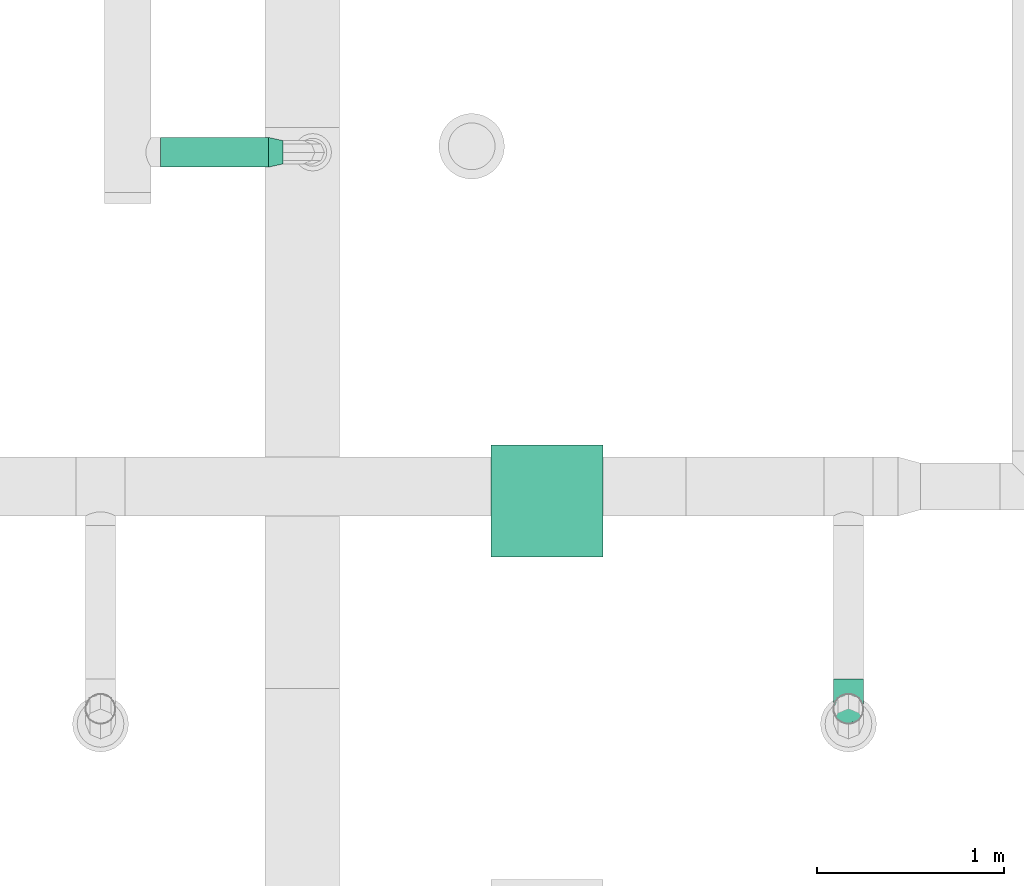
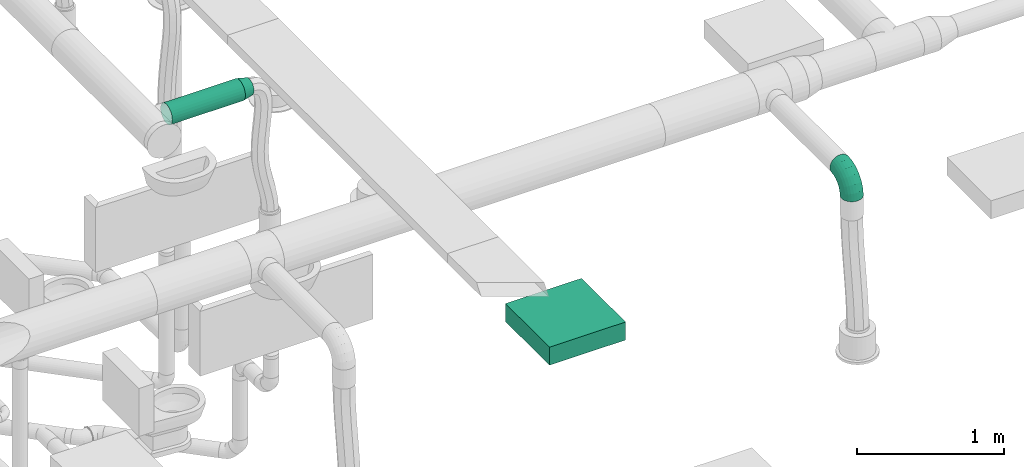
# One storey, part 97 of 374: 2 flow fittings, 1 distribution element, 1 flow segment.
"""IFC2X3 building model written with IfcOpenShell, lengths in metres."""

from ifc_helpers import new_model, si_unit, direction, frame, frame_2d, origin, place, context, subcontext, project, spatial, rectangle, extrude, open_shell, surface_model, source, transform, mapped, element, save


model = new_model("IFC2X3")

# Units and contexts
model_context = context("Model", 3, precision=1e-05, world=origin(), true_north=direction((-0.4480736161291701, 0.8939966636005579)))
body_context = subcontext(model_context, "Body", "Model", "MODEL_VIEW")
ifc_project = project(units=[si_unit("LENGTHUNIT", "METRE"), si_unit("AREAUNIT", "SQUARE_METRE"), si_unit("VOLUMEUNIT", "CUBIC_METRE"), si_unit("PLANEANGLEUNIT", "RADIAN"), si_unit("THERMODYNAMICTEMPERATUREUNIT", "KELVIN"), si_unit("MASSUNIT", "GRAM", prefix="KILO"), si_unit("TIMEUNIT", "SECOND")], contexts=[model_context])

# Site, building, storey
site_placement = place(None, origin())
site = spatial("IfcSite", under=ifc_project, at=site_placement, Name="Site 1", CompositionType="ELEMENT")
building_placement = place(site_placement, origin())
building = spatial("IfcBuilding", under=site, at=building_placement, Name="Undefined", CompositionType="ELEMENT")
storey_placement = place(building_placement, origin())
storey = spatial("IfcBuildingStorey", under=building, at=storey_placement, Name="Rez de chauss\x8ee", CompositionType="ELEMENT", Elevation=0.0)

# Flow fitting
shared_shape_1 = source(origin(), body_context, "Body", "SurfaceModel", [
    surface_model("IfcFaceBasedSurfaceModel", [(0.06265257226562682, -8.8817842e-16, 0.0), (0.062296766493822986, 0.02088115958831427, -7.105427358e-15), (0.0003558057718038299, 0.020881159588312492, 7.105427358e-15), (0.0, 0.0, 0.0), (-0.059474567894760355, 0.022956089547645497, -0.015896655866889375), (-0.06051773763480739, 0.002098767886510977, -0.01607928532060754), (-0.11311701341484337, 0.02696454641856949, -0.04660663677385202), (-0.11477645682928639, 0.006153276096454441, -0.04714207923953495), (-0.15691588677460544, 0.0326333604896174, -0.09003710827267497), (-0.15907851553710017, 0.01188721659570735, -0.09107150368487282), (-0.18788636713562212, 0.03957621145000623, -0.14322835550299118), (-0.1904048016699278, 0.01890983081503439, -0.14487384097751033), (-0.2039178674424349, 0.04731995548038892, -0.20255548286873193), (-0.20662048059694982, 0.026742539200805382, -0.20488255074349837), (0.061253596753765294, 0.04103889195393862, -0.0053597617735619), (0.0013989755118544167, 0.04103889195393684, -0.005359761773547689), (-0.05641614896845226, 0.04304393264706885, -0.02072097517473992), (-0.10825177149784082, 0.04691737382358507, -0.050396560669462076), (-0.15057538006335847, 0.05239524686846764, -0.09236417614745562), (-0.18050269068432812, 0.05910424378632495, -0.14376379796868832), (-0.19599420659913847, 0.06658715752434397, -0.20109262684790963), (0.05959415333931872, 0.05909948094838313, -0.01571402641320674), (0.003058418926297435, 0.05909948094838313, -0.01571402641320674), (-0.05155090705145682, 0.06099334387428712, -0.030223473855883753), (-0.10051228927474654, 0.06465200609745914, -0.058253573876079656), (-0.1404890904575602, 0.0698261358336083, -0.09789412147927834), (-0.16875695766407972, 0.0761631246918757, -0.14644367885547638), (-0.18338948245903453, 0.08323111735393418, -0.2005936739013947), (0.057431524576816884, 0.07383212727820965, -0.030357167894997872), (0.005221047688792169, 0.07383212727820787, -0.03035716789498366), (-0.0452104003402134, 0.07558110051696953, -0.04375657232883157), (-0.09042599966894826, 0.07895985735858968, -0.06964223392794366), (-0.12734438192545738, 0.08373814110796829, -0.10625008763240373), (-0.15344962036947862, 0.08959031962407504, -0.15108536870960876), (-0.16696268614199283, 0.0961175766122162, -0.20109262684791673), (0.054913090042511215, 0.0842328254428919, -0.048291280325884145), (0.007739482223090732, 0.08423282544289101, -0.04829128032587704), (-0.037826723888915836, 0.08581307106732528, -0.06039801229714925), (-0.07868026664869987, 0.08886587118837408, -0.08378642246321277), (-0.11203704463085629, 0.09318318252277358, -0.11686262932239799), (-0.13562384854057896, 0.09847078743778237, -0.1573725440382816), (-0.14783327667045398, 0.10436834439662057, -0.20255548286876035), (0.05221047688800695, 0.0895927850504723, -0.06829418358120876), (0.010442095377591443, 0.08959278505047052, -0.06829418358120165), (-0.029903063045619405, 0.09099196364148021, -0.07901370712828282), (-0.06607554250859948, 0.09369496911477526, -0.0997222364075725), (-0.0956102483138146, 0.0975175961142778, -0.12900851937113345), (-0.11649443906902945, 0.10219933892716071, -0.16487674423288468), (-0.12730489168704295, 0.1074211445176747, -0.2048825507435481), (0.04950786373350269, 0.08954673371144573, -0.08900271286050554), (0.013144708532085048, 0.08954673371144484, -0.08900271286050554), (-0.02197940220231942, 0.09076484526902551, -0.09833502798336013), (-0.05347081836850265, 0.09311805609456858, -0.11636367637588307), (-0.0791834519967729, 0.09644599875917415, -0.14186003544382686), (-0.09736502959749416, 0.10052187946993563, -0.17308657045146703), (-0.10677650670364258, 0.1050679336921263, -0.20791524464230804), (0.04698942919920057, 0.08409780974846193, -0.10900561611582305), (0.015663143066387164, 0.08409780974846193, -0.10900561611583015), (-0.014595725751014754, 0.08514719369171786, -0.11704525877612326), (-0.0417250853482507, 0.0871744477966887, -0.13257665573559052), (-0.06387611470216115, 0.09004141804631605, -0.15454136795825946), (-0.07953925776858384, 0.09355272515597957, -0.1814425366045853), (-0.08764709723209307, 0.09746907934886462, -0.21144689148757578), (0.04482680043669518, 0.0736173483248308, -0.12693972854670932), (0.017825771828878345, 0.0736173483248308, -0.12693972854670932), (-0.008255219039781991, 0.07452184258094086, -0.13386932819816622), (-0.03163879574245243, 0.0762691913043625, -0.14725628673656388), (-0.050731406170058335, 0.07874031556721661, -0.1661883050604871), (-0.06423192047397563, 0.08176681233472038, -0.18937519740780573), (-0.07122030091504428, 0.08514243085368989, -0.21523681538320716), (0.04316735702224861, 0.058819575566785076, -0.14158287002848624), (0.019485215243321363, 0.058819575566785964, -0.14158287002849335), (-0.0033899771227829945, 0.05961289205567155, -0.14766070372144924), (-0.02389931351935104, 0.06114546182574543, -0.15940217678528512), (-0.04064511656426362, 0.06331284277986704, -0.17600712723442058), (-0.052486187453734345, 0.06596733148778, -0.19634395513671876), (-0.05861557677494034, 0.06892802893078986, -0.2190267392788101), (0.04212418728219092, 0.040712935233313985, -0.15193713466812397), (0.020528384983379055, 0.040712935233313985, -0.15193713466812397), (-0.0003315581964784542, 0.041436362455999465, -0.15747952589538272), (-0.019034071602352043, 0.04283391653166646, -0.16818660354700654), (-0.03430460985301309, 0.04481035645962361, -0.1833286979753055), (-0.04510251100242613, 0.047230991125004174, -0.20187390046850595), (-0.05069191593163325, 0.04993085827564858, -0.22255838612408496), (0.04176838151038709, 0.02053136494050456, -0.15729689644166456), (0.020884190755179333, 0.02053136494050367, -0.15729689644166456), (0.0007116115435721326, 0.021230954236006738, -0.16265665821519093), (-0.017374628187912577, 0.022582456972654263, -0.17301092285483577), (-0.03214198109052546, 0.024493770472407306, -0.1876540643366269), (-0.042584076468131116, 0.026834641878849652, -0.20558817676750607), (-0.04798930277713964, 0.02944554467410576, -0.22559108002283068), (0.04212418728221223, -0.000349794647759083, -0.15729689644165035), (0.020528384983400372, -0.000349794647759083, -0.15729689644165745), (-0.0003315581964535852, 0.00037363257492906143, -0.1628392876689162), (-0.019034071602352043, 0.0017711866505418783, -0.17354636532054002), (-0.03430460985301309, 0.0037476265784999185, -0.18868845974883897), (-0.04510251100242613, 0.00616826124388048, -0.20723366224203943), (-0.05069191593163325, 0.008868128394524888, -0.22791814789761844), (0.04316735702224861, -0.020507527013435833, -0.15193713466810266), (0.019485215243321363, -0.020507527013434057, -0.15193713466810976), (-0.0033899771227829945, -0.019714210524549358, -0.15801496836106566), (-0.02389931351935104, -0.01818164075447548, -0.16975644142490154), (-0.04064511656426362, -0.01601425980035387, -0.186361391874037), (-0.052486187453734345, -0.013359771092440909, -0.20669821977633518), (-0.05861557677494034, -0.010399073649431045, -0.22938100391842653), (0.04482680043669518, -0.03856811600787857, -0.1415828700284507), (0.017825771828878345, -0.03856811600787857, -0.1415828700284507), (-0.008255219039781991, -0.03766362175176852, -0.1485124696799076), (-0.03163879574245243, -0.03591627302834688, -0.16189942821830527), (-0.050731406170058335, -0.03344514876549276, -0.1808314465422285), (-0.06423192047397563, -0.030418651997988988, -0.20401833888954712), (-0.07122030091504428, -0.027043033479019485, -0.22987995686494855), (0.04698942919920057, -0.05330076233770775, -0.12693972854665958), (0.015663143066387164, -0.05330076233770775, -0.12693972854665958), (-0.014595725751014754, -0.05225137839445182, -0.1349793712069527), (-0.0417250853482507, -0.05022412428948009, -0.15051076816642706), (-0.06387611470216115, -0.047357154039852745, -0.172475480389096), (-0.07953925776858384, -0.043845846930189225, -0.19937664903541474), (-0.08764709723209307, -0.03992949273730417, -0.2293810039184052), (0.04950786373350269, -0.06370146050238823, -0.10900561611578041), (0.013144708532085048, -0.06370146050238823, -0.10900561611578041), (-0.02197940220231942, -0.06248334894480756, -0.11833793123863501), (-0.05347081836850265, -0.06013013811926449, -0.13636657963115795), (-0.0791834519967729, -0.05680219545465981, -0.16186293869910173), (-0.09736502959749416, -0.05272631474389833, -0.1930894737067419), (-0.10677650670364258, -0.04818026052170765, -0.2279181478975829), (0.05221047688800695, -0.06906142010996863, -0.08900271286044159), (0.010442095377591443, -0.06906142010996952, -0.08900271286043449), (-0.029903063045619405, -0.06766224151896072, -0.09972223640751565), (-0.06607554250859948, -0.06495923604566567, -0.12043076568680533), (-0.0956102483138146, -0.06113660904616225, -0.14971704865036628), (-0.11649443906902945, -0.05645486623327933, -0.1855852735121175), (-0.12730489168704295, -0.05123306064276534, -0.22559108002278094), (0.054913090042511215, -0.06901536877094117, -0.06829418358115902), (0.007739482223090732, -0.06901536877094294, -0.06829418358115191), (-0.037826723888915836, -0.06743512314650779, -0.08040091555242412), (-0.07868026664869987, -0.06438232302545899, -0.10378932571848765), (-0.11203704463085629, -0.06006501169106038, -0.13686553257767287), (-0.13562384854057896, -0.0547774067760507, -0.17737544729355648), (-0.14783327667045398, -0.04887984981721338, -0.22255838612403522), (0.057431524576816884, -0.06356644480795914, -0.0482912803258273), (0.005221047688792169, -0.06356644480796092, -0.04829128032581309), (-0.0452104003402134, -0.061817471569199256, -0.0616906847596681), (-0.09042599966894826, -0.05843871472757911, -0.0875763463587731), (-0.12734438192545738, -0.05366043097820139, -0.12418420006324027), (-0.15344962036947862, -0.04780825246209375, -0.1690194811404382), (-0.16696268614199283, -0.041280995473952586, -0.21902673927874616), (0.05959415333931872, -0.05308598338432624, -0.030357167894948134), (0.003058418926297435, -0.05308598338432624, -0.030357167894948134), (-0.05155090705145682, -0.05119212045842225, -0.04486661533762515), (-0.10051228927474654, -0.04753345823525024, -0.07289671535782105), (-0.1404890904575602, -0.04235932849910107, -0.11253726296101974), (-0.16875695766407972, -0.03602233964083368, -0.16108682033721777), (-0.18338948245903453, -0.02895434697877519, -0.2152368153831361), (0.061253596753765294, -0.03828821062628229, -0.015714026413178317), (0.0013989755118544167, -0.03828821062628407, -0.015714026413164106), (-0.05641614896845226, -0.03628316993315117, -0.031075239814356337), (-0.10825177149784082, -0.03240972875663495, -0.06075082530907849), (-0.15057538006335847, -0.026931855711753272, -0.10271844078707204), (-0.18050269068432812, -0.02022285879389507, -0.15411806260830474), (-0.19599420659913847, -0.012739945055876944, -0.21144689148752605), (0.062296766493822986, -0.020181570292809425, -0.005359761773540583), (0.0003558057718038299, -0.020181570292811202, -0.0053597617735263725), (-0.059474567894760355, -0.018106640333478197, -0.021256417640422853), (-0.11311701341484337, -0.014098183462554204, -0.051966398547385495), (-0.15691588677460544, -0.00842936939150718, -0.09539687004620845), (-0.18788636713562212, -0.0014865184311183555, -0.14858811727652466), (-0.2039178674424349, 0.006257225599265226, -0.2079152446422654)], [open_shell([[[0, 1, 2, 3]], [[3, 2, 4, 5]], [[5, 4, 6, 7]], [[7, 6, 8, 9]], [[9, 8, 10, 11]], [[11, 10, 12, 13]], [[1, 14, 15, 2]], [[2, 15, 16, 4]], [[4, 16, 17, 6]], [[6, 17, 18, 8]], [[8, 18, 19, 10]], [[10, 19, 20, 12]], [[14, 21, 22, 15]], [[15, 22, 23, 16]], [[16, 23, 24, 17]], [[17, 24, 25, 18]], [[18, 25, 26, 19]], [[19, 26, 27, 20]], [[21, 28, 29, 22]], [[22, 29, 30, 23]], [[23, 30, 31, 24]], [[24, 31, 32, 25]], [[25, 32, 33, 26]], [[26, 33, 34, 27]], [[28, 35, 36, 29]], [[29, 36, 37, 30]], [[30, 37, 38, 31]], [[31, 38, 39, 32]], [[32, 39, 40, 33]], [[33, 40, 41, 34]], [[35, 42, 43, 36]], [[36, 43, 44, 37]], [[37, 44, 45, 38]], [[38, 45, 46, 39]], [[39, 46, 47, 40]], [[40, 47, 48, 41]], [[42, 49, 50, 43]], [[43, 50, 51, 44]], [[44, 51, 52, 45]], [[45, 52, 53, 46]], [[46, 53, 54, 47]], [[47, 54, 55, 48]], [[49, 56, 57, 50]], [[50, 57, 58, 51]], [[51, 58, 59, 52]], [[52, 59, 60, 53]], [[53, 60, 61, 54]], [[54, 61, 62, 55]], [[56, 63, 64, 57]], [[57, 64, 65, 58]], [[58, 65, 66, 59]], [[59, 66, 67, 60]], [[60, 67, 68, 61]], [[61, 68, 69, 62]], [[63, 70, 71, 64]], [[64, 71, 72, 65]], [[65, 72, 73, 66]], [[66, 73, 74, 67]], [[67, 74, 75, 68]], [[68, 75, 76, 69]], [[70, 77, 78, 71]], [[71, 78, 79, 72]], [[72, 79, 80, 73]], [[73, 80, 81, 74]], [[74, 81, 82, 75]], [[75, 82, 83, 76]], [[77, 84, 85, 78]], [[78, 85, 86, 79]], [[79, 86, 87, 80]], [[80, 87, 88, 81]], [[81, 88, 89, 82]], [[82, 89, 90, 83]], [[84, 91, 92, 85]], [[85, 92, 93, 86]], [[86, 93, 94, 87]], [[87, 94, 95, 88]], [[88, 95, 96, 89]], [[89, 96, 97, 90]], [[91, 98, 99, 92]], [[92, 99, 100, 93]], [[93, 100, 101, 94]], [[94, 101, 102, 95]], [[95, 102, 103, 96]], [[96, 103, 104, 97]], [[98, 105, 106, 99]], [[99, 106, 107, 100]], [[100, 107, 108, 101]], [[101, 108, 109, 102]], [[102, 109, 110, 103]], [[103, 110, 111, 104]], [[105, 112, 113, 106]], [[106, 113, 114, 107]], [[107, 114, 115, 108]], [[108, 115, 116, 109]], [[109, 116, 117, 110]], [[110, 117, 118, 111]], [[112, 119, 120, 113]], [[113, 120, 121, 114]], [[114, 121, 122, 115]], [[115, 122, 123, 116]], [[116, 123, 124, 117]], [[117, 124, 125, 118]], [[119, 126, 127, 120]], [[120, 127, 128, 121]], [[121, 128, 129, 122]], [[122, 129, 130, 123]], [[123, 130, 131, 124]], [[124, 131, 132, 125]], [[126, 133, 134, 127]], [[127, 134, 135, 128]], [[128, 135, 136, 129]], [[129, 136, 137, 130]], [[130, 137, 138, 131]], [[131, 138, 139, 132]], [[133, 140, 141, 134]], [[134, 141, 142, 135]], [[135, 142, 143, 136]], [[136, 143, 144, 137]], [[137, 144, 145, 138]], [[138, 145, 146, 139]], [[140, 147, 148, 141]], [[141, 148, 149, 142]], [[142, 149, 150, 143]], [[143, 150, 151, 144]], [[144, 151, 152, 145]], [[145, 152, 153, 146]], [[147, 154, 155, 148]], [[148, 155, 156, 149]], [[149, 156, 157, 150]], [[150, 157, 158, 151]], [[151, 158, 159, 152]], [[152, 159, 160, 153]], [[154, 161, 162, 155]], [[155, 162, 163, 156]], [[156, 163, 164, 157]], [[157, 164, 165, 158]], [[158, 165, 166, 159]], [[159, 166, 167, 160]], [[161, 0, 3, 162]], [[162, 3, 5, 163]], [[163, 5, 7, 164]], [[164, 7, 9, 165]], [[165, 9, 11, 166]], [[166, 11, 13, 167]]])]),
])
flow_fitting_1_placement = place(storey_placement, origin())
element("IfcFlowFitting", 1, at=flow_fitting_1_placement, inside=storey, Name="Coude", ObjectType="Coude", context=body_context, shape_type="MappedRepresentation", body=[
    mapped(shared_shape_1, transform((60.2900038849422, 6.963176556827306, 3.7021165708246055), x_axis=(9.56658874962e-13, -0.13052619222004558, -0.9914448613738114), y_axis=(0.9915887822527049, 0.12832103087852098, -0.01689378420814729), z_axis=(0.12942830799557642, -0.983105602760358, 0.1294283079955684))),
])

# Flow segment
shared_shape_2 = source(origin(), body_context, "Body", "SurfaceModel", [
    surface_model("IfcFaceBasedSurfaceModel", [(0.0, 0.020884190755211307, 0.0), (0.0, 0.0, 0.0), (0.5759490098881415, -1.776356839e-15, 0.0), (0.5759490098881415, 0.020884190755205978, 0.0), (0.0, -0.020172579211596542, -0.005405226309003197), (0.5759490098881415, -0.020172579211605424, -0.005405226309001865), (0.0, -0.03825881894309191, -0.015847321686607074), (0.5759490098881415, -0.038258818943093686, -0.015847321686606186), (0.0, -0.05302617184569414, -0.0306146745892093), (0.5759490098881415, -0.05302617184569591, -0.030614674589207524), (0.0, -0.06346826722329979, -0.04870091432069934), (0.5759490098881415, -0.06346826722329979, -0.04870091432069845), (0.0, -0.06887349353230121, -0.06887349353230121), (0.5759490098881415, -0.06887349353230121, -0.06887349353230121), (0.0, -0.06887349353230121, -0.08975768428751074), (0.5759490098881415, -0.06887349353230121, -0.08975768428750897), (0.0, -0.06346826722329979, -0.10993026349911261), (0.5759490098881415, -0.06346826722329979, -0.10993026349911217), (0.0, -0.05302617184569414, -0.12801650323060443), (0.5759490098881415, -0.05302617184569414, -0.12801650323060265), (0.0, -0.038258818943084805, -0.14278385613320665), (0.5759490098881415, -0.038258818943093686, -0.14278385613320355), (0.0, -0.020172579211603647, -0.15322595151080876), (0.5759490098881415, -0.020172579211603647, -0.15322595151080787), (0.0, 7.105427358e-15, -0.15863117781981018), (0.5759490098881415, -1.776356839e-15, -0.1586311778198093), (0.0, 0.020884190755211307, -0.15863117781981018), (0.5759490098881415, 0.020884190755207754, -0.1586311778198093), (0.0, 0.04105676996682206, -0.15322595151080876), (0.5759490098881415, 0.0410567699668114, -0.15322595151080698), (0.0, 0.05914300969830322, -0.1427838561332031), (0.5759490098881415, 0.05914300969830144, -0.1427838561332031), (0.0, 0.07391036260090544, -0.12801650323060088), (0.5759490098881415, 0.07391036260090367, -0.12801650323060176), (0.0, 0.0843524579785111, -0.10993026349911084), (0.5759490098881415, 0.08435245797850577, -0.10993026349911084), (0.0, 0.08975768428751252, -0.08975768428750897), (0.5759490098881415, 0.08975768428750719, -0.08975768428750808), (0.0, 0.08975768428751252, -0.06887349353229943), (0.5759490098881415, 0.08975768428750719, -0.06887349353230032), (0.0, 0.0843524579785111, -0.048700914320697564), (0.5759490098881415, 0.08435245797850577, -0.04870091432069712), (0.0, 0.07391036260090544, -0.030614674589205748), (0.5759490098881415, 0.07391036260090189, -0.030614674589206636), (0.0, 0.05914300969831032, -0.015847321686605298), (0.5759490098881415, 0.059143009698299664, -0.015847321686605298), (0.0, 0.04105676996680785, -0.005405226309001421), (0.5759490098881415, 0.041056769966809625, -0.005405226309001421)], [open_shell([[[0, 1, 2, 3]], [[1, 4, 5, 2]], [[4, 6, 7, 5]], [[6, 8, 9, 7]], [[8, 10, 11, 9]], [[10, 12, 13, 11]], [[12, 14, 15, 13]], [[14, 16, 17, 15]], [[16, 18, 19, 17]], [[18, 20, 21, 19]], [[20, 22, 23, 21]], [[22, 24, 25, 23]], [[24, 26, 27, 25]], [[26, 28, 29, 27]], [[28, 30, 31, 29]], [[30, 32, 33, 31]], [[32, 34, 35, 33]], [[34, 36, 37, 35]], [[36, 38, 39, 37]], [[38, 40, 41, 39]], [[40, 42, 43, 41]], [[42, 44, 45, 43]], [[44, 46, 47, 45]], [[46, 0, 3, 47]]])]),
])
flow_segment_placement = place(storey_placement, origin())
element("IfcFlowSegment", 2, at=flow_segment_placement, inside=storey, Name="Tube", ObjectType="Tube", context=body_context, shape_type="MappedRepresentation", body=[
    mapped(shared_shape_2, transform((56.61105099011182, 9.99152821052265, 3.877274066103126), x_axis=(1.0, 0.0, 0.0), y_axis=(0.0, 0.9914448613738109, 0.1305261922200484), z_axis=(0.0, -0.1305261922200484, 0.9914448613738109))),
])

# Flow fitting
shared_shape_3 = source(origin(), body_context, "Body", "SurfaceModel", [
    surface_model("IfcFaceBasedSurfaceModel", [(0.07993903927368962, 0.0, 0.0), (0.08040525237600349, 0.016309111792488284, 0.0), (0.0005967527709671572, 0.020875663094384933, 0.0), (0.0, 0.0, 0.0), (0.08177212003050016, 0.03203630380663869, -0.004122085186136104), (0.002346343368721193, 0.041006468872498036, -0.005276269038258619), (0.08394649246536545, 0.04610979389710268, -0.01208534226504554), (0.005129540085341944, 0.05902053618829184, -0.015469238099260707), (0.08678018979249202, 0.057570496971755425, -0.02334708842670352), (0.008756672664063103, 0.07369023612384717, -0.029884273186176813), (0.09008010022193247, 0.065637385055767, -0.03713985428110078), (0.012980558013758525, 0.08401585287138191, -0.04753901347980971), (0.09362134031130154, 0.06976071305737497, -0.05252368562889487), (0.017513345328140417, 0.08929371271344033, -0.06723031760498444), (0.0971625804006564, 0.06965948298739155, -0.06845019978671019), (0.022046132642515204, 0.08916413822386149, -0.08761625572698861), (0.10046249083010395, 0.06534059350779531, -0.08383403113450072), (0.026270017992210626, 0.08363595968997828, -0.10730755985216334), (0.10329618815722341, 0.05709836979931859, -0.09762679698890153), (0.029897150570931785, 0.07308591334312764, -0.12496230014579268), (0.10547056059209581, 0.04549450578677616, -0.10888854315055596), (0.032680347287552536, 0.058232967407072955, -0.13937733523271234), (0.10683742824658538, 0.031319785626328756, -0.1168518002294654), (0.03442993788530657, 0.040089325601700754, -0.14957030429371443), (0.10730364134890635, 0.015540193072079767, -0.12097388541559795), (0.035026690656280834, 0.019891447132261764, -0.1548465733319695), (0.10683742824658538, -0.0007689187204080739, -0.1209738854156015), (0.03442993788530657, -0.0009842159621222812, -0.15484657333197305), (0.10547056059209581, -0.016496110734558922, -0.11685180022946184), (0.03268034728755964, -0.02111502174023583, -0.14957030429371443), (0.10329618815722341, -0.030569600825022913, -0.10888854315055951), (0.029897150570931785, -0.03912908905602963, -0.13937733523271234), (0.10046249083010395, -0.042030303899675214, -0.09762679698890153), (0.02627001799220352, -0.05379878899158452, -0.12496230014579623), (0.0971625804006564, -0.05009719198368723, -0.08383403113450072), (0.022046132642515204, -0.0641244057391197, -0.10730755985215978), (0.09362134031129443, -0.0542205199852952, -0.06845019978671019), (0.017513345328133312, -0.06940226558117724, -0.08761625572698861), (0.09008010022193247, -0.054119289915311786, -0.05252368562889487), (0.01298055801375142, -0.06927269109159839, -0.06723031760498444), (0.08678018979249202, -0.04980040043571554, -0.037139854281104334), (0.008756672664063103, -0.06374451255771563, -0.04753901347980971), (0.08394649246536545, -0.04155817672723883, -0.02334708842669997), (0.005129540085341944, -0.05319446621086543, -0.029884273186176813), (0.08177212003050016, -0.029954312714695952, -0.012085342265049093), (0.0023463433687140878, -0.0383415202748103, -0.015469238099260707), (0.08040525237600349, -0.01577959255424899, -0.004122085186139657), (0.0005967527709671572, -0.020197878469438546, -0.005276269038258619)], [open_shell([[[0, 1, 2, 3]], [[1, 4, 5, 2]], [[4, 6, 7, 5]], [[6, 8, 9, 7]], [[8, 10, 11, 9]], [[10, 12, 13, 11]], [[12, 14, 15, 13]], [[14, 16, 17, 15]], [[16, 18, 19, 17]], [[18, 20, 21, 19]], [[20, 22, 23, 21]], [[22, 24, 25, 23]], [[24, 26, 27, 25]], [[26, 28, 29, 27]], [[28, 30, 31, 29]], [[30, 32, 33, 31]], [[32, 34, 35, 33]], [[34, 36, 37, 35]], [[36, 38, 39, 37]], [[38, 40, 41, 39]], [[40, 42, 43, 41]], [[42, 44, 45, 43]], [[44, 46, 47, 45]], [[46, 0, 3, 47]]])]),
])
flow_fitting_2_placement = place(storey_placement, origin())
element("IfcFlowFitting", 3, at=flow_fitting_2_placement, inside=storey, Name="Réduction conique", ObjectType="Réduction conique", context=body_context, shape_type="MappedRepresentation", body=[
    mapped(shared_shape_3, transform((57.18699999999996, 10.092233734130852, 3.8000000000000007), x_axis=(0.9757435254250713, -0.2189168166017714, 0.0), y_axis=(-0.02789265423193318, -0.12432154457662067, -0.9918498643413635), z_axis=(0.2171326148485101, 0.9677910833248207, -0.12741211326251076))),
])

# Distribution element
distribution_element_placement = place(storey_placement, origin())
element("IfcDistributionElement", 4, at=distribution_element_placement, inside=storey, Name="Decken-Rechteckleuchte mit Rahmen AP", ObjectType="Decken-Rechteckleuchte mit Rahmen AP", context=body_context, shape_type="SweptSolid", body=[
    extrude(rectangle(XDim=0.6000000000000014, YDim=0.6000000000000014, at=frame_2d((3.552713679e-15, 0.0), x_axis=(0.0, 1.0))), frame((58.67818011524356, 8.147841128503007, 2.5500000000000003), z_axis=(0.0, 0.0, -1.0), x_axis=(1.0, 0.0, 0.0)), (0.0, 0.0, 1.0), 0.15),
])

save(model, "model.ifc")
